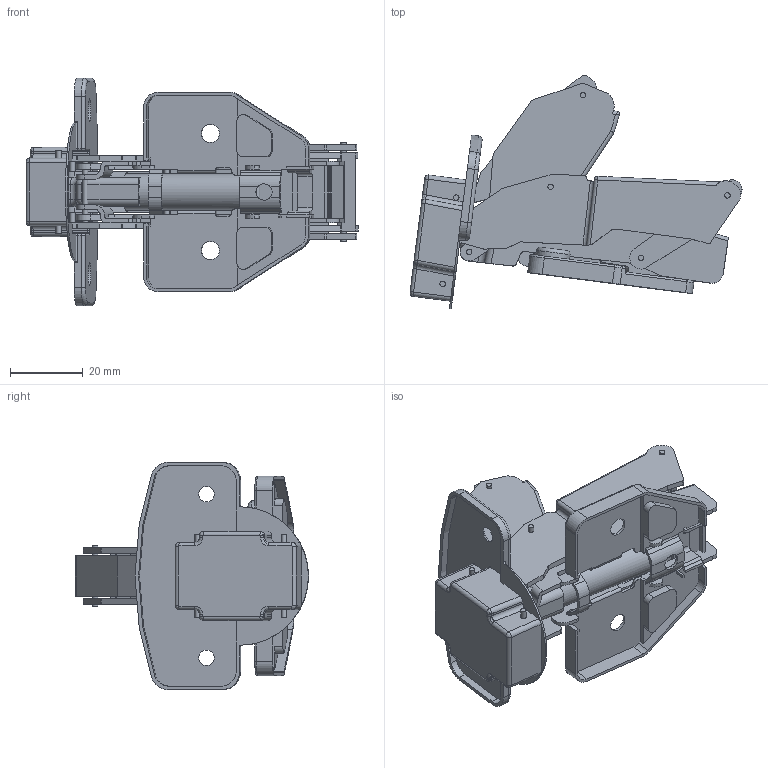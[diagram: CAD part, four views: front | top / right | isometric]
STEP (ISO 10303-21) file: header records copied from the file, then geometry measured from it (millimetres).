
FILE_DESCRIPTION(/* description */ (''),/* implementation_level */ '2;1');
FILE_NAME(/* name */ 'W:\R&D\pub\Katalog techniczny\zawiasy GTV_bryły 3D\ZM-HCKT155BE.stp',/* time_stamp */ '2016-12-16T14:40:03+01:00',/* author */ ('tomaszw'),/* organization */ (''),/* preprocessor_version */ 'ST-DEVELOPER v16.1',/* originating_system */ 'Autodesk Inventor 2016',/* authorisation */ '');
FILE_SCHEMA (('CONFIG_CONTROL_DESIGN'));
Length unit declared in the file: millimetre
Products named in the file (13): ZM-HCKT155_5; ZM-HCKT155_4; ZM-HCKT155_3; ZM-HCKT155_2; ZM-HCKT155_1; ZM-HCKT155_6; ZM-HCKT155_P; ZM-HCKT155_7; pin1; pin2; pin3; ZM-ZM-HCKT155_0; ZM-HCKT155BE(ZE)
Assembly tree (16 placements, depth 2):
  ZM-HCKT155BE(ZE)
    ZM-HCKT155_5
    ZM-HCKT155_4
    ZM-HCKT155_3
    ZM-HCKT155_2
    ZM-HCKT155_1
    ZM-HCKT155_6
    ZM-HCKT155_P
    ZM-HCKT155_7
    pin1
    pin2  x4
    pin3  x2
    ZM-ZM-HCKT155_0
Bounding box: 91.18 x 64.05 x 62.5 mm (x, y, z)
Volume: 25570.1 mm3; surface area: 42021 mm2
Topology: 18 solids, 18 shells, 984 faces, 2677 edges, 1715 vertices
Faces by surface type: plane 476, cylinder 403, bspline 55, torus 36, sphere 8, cone 6
Full cylindrical faces by diameter (mm): 1.5 x33, 2 x2, 4.5 x1, 5 x2, 6 x2, 9.261 x1, 10 x1
Entity records: 34201 total; most frequent: CARTESIAN_POINT 8225, DIRECTION 5313, ORIENTED_EDGE 5206, EDGE_CURVE 2603, AXIS2_PLACEMENT_3D 1839, VERTEX_POINT 1699, LINE 1635, VECTOR 1635
